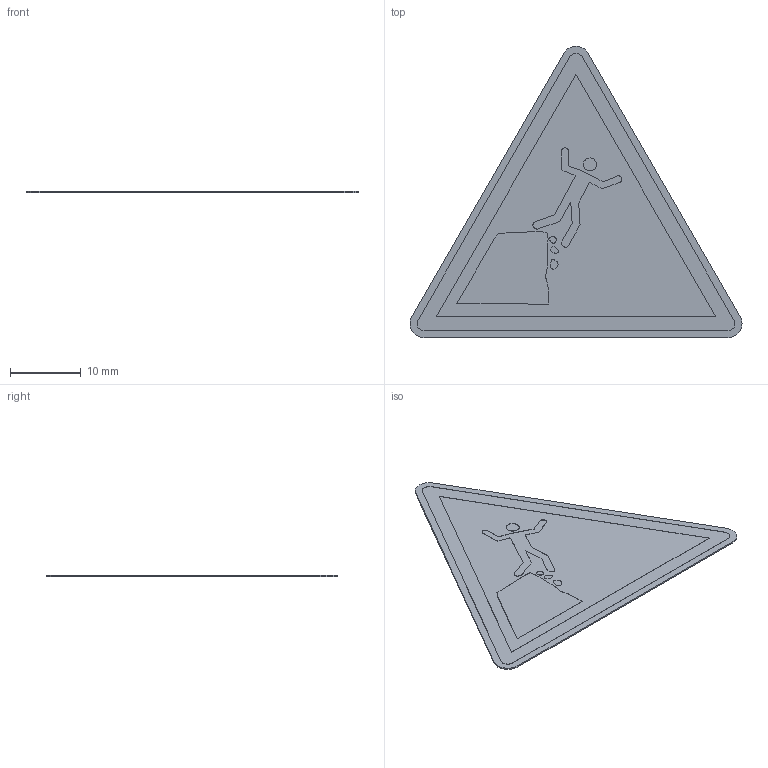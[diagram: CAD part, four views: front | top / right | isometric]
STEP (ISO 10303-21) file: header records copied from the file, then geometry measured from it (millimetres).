
FILE_DESCRIPTION (( 'STEP AP214' ), '1' );
FILE_NAME ('W052_Warnung vor instabiler Klippenkante.STEP', '2022-03-04T06:01:52', ( '' ), ( '' ), 'SwSTEP 2.0', 'SolidWorks 2021', '' );
FILE_SCHEMA (( 'AUTOMOTIVE_DESIGN' ));
Length unit declared in the file: millimetre
Products named in the file (1): W052_Warnung vor instabiler Klippenkante
Bounding box: 47.07 x 41.3 x 0.22 mm (x, y, z)
Volume: 222.8 mm3; surface area: 2184.4 mm2
Topology: 1 solids, 1 shells, 118 faces, 324 edges, 216 vertices
Faces by surface type: plane 97, cylinder 21
Entity records: 4943 total; most frequent: CARTESIAN_POINT 659, ORIENTED_EDGE 648, DIRECTION 604, EDGE_CURVE 324, VECTOR 282, LINE 282, VERTEX_POINT 216, AXIS2_PLACEMENT_3D 161
